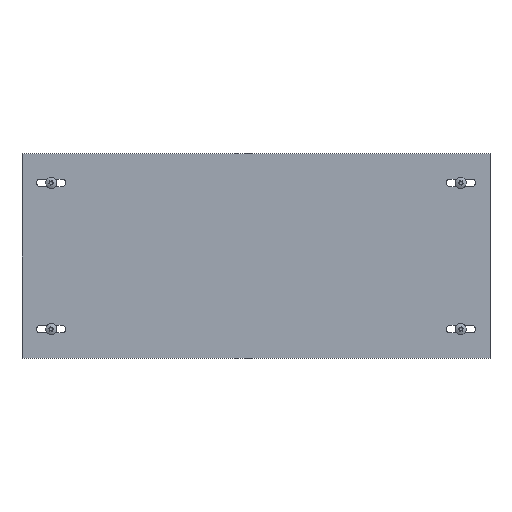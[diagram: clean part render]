
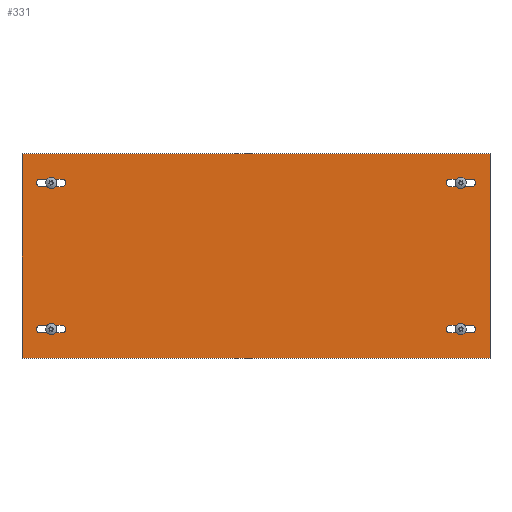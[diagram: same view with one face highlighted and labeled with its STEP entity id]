
A CAD part, top view. The second image highlights one B-rep face of the part: STEP entity #331.
In plain terms, the highlighted planar face has unit normal (0, 0, 1).
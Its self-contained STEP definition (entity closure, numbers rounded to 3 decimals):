
#55 = EDGE_CURVE('',#56,#58,#60,.T.);
#56 = VERTEX_POINT('',#57);
#57 = CARTESIAN_POINT('',(-200.,87.5,0.));
#58 = VERTEX_POINT('',#59);
#59 = CARTESIAN_POINT('',(-200.,-87.5,0.));
#60 = LINE('',#61,#62);
#61 = CARTESIAN_POINT('',(-200.,-87.5,0.));
#62 = VECTOR('',#63,1.);
#63 = DIRECTION('',(-0.,-1.,-0.));
#95 = EDGE_CURVE('',#96,#56,#98,.T.);
#96 = VERTEX_POINT('',#97);
#97 = CARTESIAN_POINT('',(200.,87.5,0.));
#98 = LINE('',#99,#100);
#99 = CARTESIAN_POINT('',(200.,87.5,0.));
#100 = VECTOR('',#101,1.);
#101 = DIRECTION('',(-1.,0.,0.));
#126 = EDGE_CURVE('',#127,#96,#129,.T.);
#127 = VERTEX_POINT('',#128);
#128 = CARTESIAN_POINT('',(200.,-87.5,0.));
#129 = LINE('',#130,#131);
#130 = CARTESIAN_POINT('',(200.,-87.5,0.));
#131 = VECTOR('',#132,1.);
#132 = DIRECTION('',(0.,1.,0.));
#157 = EDGE_CURVE('',#58,#127,#158,.T.);
#158 = LINE('',#159,#160);
#159 = CARTESIAN_POINT('',(200.,-87.5,0.));
#160 = VECTOR('',#161,1.);
#161 = DIRECTION('',(1.,0.,-0.));
#331 = ADVANCED_FACE('',(#332,#368,#404,#440,#476),#482,.T.);
#332 = FACE_BOUND('',#333,.T.);
#333 = EDGE_LOOP('',(#334,#345,#353,#362));
#334 = ORIENTED_EDGE('',*,*,#335,.F.);
#335 = EDGE_CURVE('',#336,#338,#340,.T.);
#336 = VERTEX_POINT('',#337);
#337 = CARTESIAN_POINT('',(-165.75,-65.75,0.));
#338 = VERTEX_POINT('',#339);
#339 = CARTESIAN_POINT('',(-165.75,-59.25,0.));
#340 = CIRCLE('',#341,3.25);
#341 = AXIS2_PLACEMENT_3D('',#342,#343,#344);
#342 = CARTESIAN_POINT('',(-165.75,-62.5,0.));
#343 = DIRECTION('',(0.,0.,1.));
#344 = DIRECTION('',(1.,0.,-0.));
#345 = ORIENTED_EDGE('',*,*,#346,.F.);
#346 = EDGE_CURVE('',#347,#336,#349,.T.);
#347 = VERTEX_POINT('',#348);
#348 = CARTESIAN_POINT('',(-184.25,-65.75,0.));
#349 = LINE('',#350,#351);
#350 = CARTESIAN_POINT('',(-165.75,-65.75,0.));
#351 = VECTOR('',#352,1.);
#352 = DIRECTION('',(1.,-0.,-0.));
#353 = ORIENTED_EDGE('',*,*,#354,.F.);
#354 = EDGE_CURVE('',#355,#347,#357,.T.);
#355 = VERTEX_POINT('',#356);
#356 = CARTESIAN_POINT('',(-184.25,-59.25,0.));
#357 = CIRCLE('',#358,3.25);
#358 = AXIS2_PLACEMENT_3D('',#359,#360,#361);
#359 = CARTESIAN_POINT('',(-184.25,-62.5,0.));
#360 = DIRECTION('',(0.,0.,1.));
#361 = DIRECTION('',(1.,0.,-0.));
#362 = ORIENTED_EDGE('',*,*,#363,.F.);
#363 = EDGE_CURVE('',#338,#355,#364,.T.);
#364 = LINE('',#365,#366);
#365 = CARTESIAN_POINT('',(-165.75,-59.25,0.));
#366 = VECTOR('',#367,1.);
#367 = DIRECTION('',(-1.,0.,0.));
#368 = FACE_BOUND('',#369,.T.);
#369 = EDGE_LOOP('',(#370,#381,#389,#398));
#370 = ORIENTED_EDGE('',*,*,#371,.F.);
#371 = EDGE_CURVE('',#372,#374,#376,.T.);
#372 = VERTEX_POINT('',#373);
#373 = CARTESIAN_POINT('',(-165.75,59.25,0.));
#374 = VERTEX_POINT('',#375);
#375 = CARTESIAN_POINT('',(-165.75,65.75,0.));
#376 = CIRCLE('',#377,3.25);
#377 = AXIS2_PLACEMENT_3D('',#378,#379,#380);
#378 = CARTESIAN_POINT('',(-165.75,62.5,0.));
#379 = DIRECTION('',(0.,0.,1.));
#380 = DIRECTION('',(-1.,0.,0.));
#381 = ORIENTED_EDGE('',*,*,#382,.F.);
#382 = EDGE_CURVE('',#383,#372,#385,.T.);
#383 = VERTEX_POINT('',#384);
#384 = CARTESIAN_POINT('',(-184.25,59.25,0.));
#385 = LINE('',#386,#387);
#386 = CARTESIAN_POINT('',(-165.75,59.25,0.));
#387 = VECTOR('',#388,1.);
#388 = DIRECTION('',(1.,-0.,-0.));
#389 = ORIENTED_EDGE('',*,*,#390,.F.);
#390 = EDGE_CURVE('',#391,#383,#393,.T.);
#391 = VERTEX_POINT('',#392);
#392 = CARTESIAN_POINT('',(-184.25,65.75,0.));
#393 = CIRCLE('',#394,3.25);
#394 = AXIS2_PLACEMENT_3D('',#395,#396,#397);
#395 = CARTESIAN_POINT('',(-184.25,62.5,0.));
#396 = DIRECTION('',(0.,0.,1.));
#397 = DIRECTION('',(-1.,0.,0.));
#398 = ORIENTED_EDGE('',*,*,#399,.F.);
#399 = EDGE_CURVE('',#374,#391,#400,.T.);
#400 = LINE('',#401,#402);
#401 = CARTESIAN_POINT('',(-165.75,65.75,0.));
#402 = VECTOR('',#403,1.);
#403 = DIRECTION('',(-1.,0.,0.));
#404 = FACE_BOUND('',#405,.T.);
#405 = EDGE_LOOP('',(#406,#417,#425,#434));
#406 = ORIENTED_EDGE('',*,*,#407,.F.);
#407 = EDGE_CURVE('',#408,#410,#412,.T.);
#408 = VERTEX_POINT('',#409);
#409 = CARTESIAN_POINT('',(165.75,65.75,0.));
#410 = VERTEX_POINT('',#411);
#411 = CARTESIAN_POINT('',(165.75,59.25,0.));
#412 = CIRCLE('',#413,3.25);
#413 = AXIS2_PLACEMENT_3D('',#414,#415,#416);
#414 = CARTESIAN_POINT('',(165.75,62.5,0.));
#415 = DIRECTION('',(0.,0.,1.));
#416 = DIRECTION('',(1.,0.,-0.));
#417 = ORIENTED_EDGE('',*,*,#418,.F.);
#418 = EDGE_CURVE('',#419,#408,#421,.T.);
#419 = VERTEX_POINT('',#420);
#420 = CARTESIAN_POINT('',(184.25,65.75,0.));
#421 = LINE('',#422,#423);
#422 = CARTESIAN_POINT('',(165.75,65.75,0.));
#423 = VECTOR('',#424,1.);
#424 = DIRECTION('',(-1.,-0.,-0.));
#425 = ORIENTED_EDGE('',*,*,#426,.F.);
#426 = EDGE_CURVE('',#427,#419,#429,.T.);
#427 = VERTEX_POINT('',#428);
#428 = CARTESIAN_POINT('',(184.25,59.25,0.));
#429 = CIRCLE('',#430,3.25);
#430 = AXIS2_PLACEMENT_3D('',#431,#432,#433);
#431 = CARTESIAN_POINT('',(184.25,62.5,0.));
#432 = DIRECTION('',(0.,0.,1.));
#433 = DIRECTION('',(1.,0.,-0.));
#434 = ORIENTED_EDGE('',*,*,#435,.F.);
#435 = EDGE_CURVE('',#410,#427,#436,.T.);
#436 = LINE('',#437,#438);
#437 = CARTESIAN_POINT('',(165.75,59.25,0.));
#438 = VECTOR('',#439,1.);
#439 = DIRECTION('',(1.,0.,0.));
#440 = FACE_BOUND('',#441,.T.);
#441 = EDGE_LOOP('',(#442,#453,#461,#470));
#442 = ORIENTED_EDGE('',*,*,#443,.F.);
#443 = EDGE_CURVE('',#444,#446,#448,.T.);
#444 = VERTEX_POINT('',#445);
#445 = CARTESIAN_POINT('',(165.75,-59.25,0.));
#446 = VERTEX_POINT('',#447);
#447 = CARTESIAN_POINT('',(165.75,-65.75,0.));
#448 = CIRCLE('',#449,3.25);
#449 = AXIS2_PLACEMENT_3D('',#450,#451,#452);
#450 = CARTESIAN_POINT('',(165.75,-62.5,0.));
#451 = DIRECTION('',(0.,0.,1.));
#452 = DIRECTION('',(-1.,0.,0.));
#453 = ORIENTED_EDGE('',*,*,#454,.F.);
#454 = EDGE_CURVE('',#455,#444,#457,.T.);
#455 = VERTEX_POINT('',#456);
#456 = CARTESIAN_POINT('',(184.25,-59.25,0.));
#457 = LINE('',#458,#459);
#458 = CARTESIAN_POINT('',(165.75,-59.25,0.));
#459 = VECTOR('',#460,1.);
#460 = DIRECTION('',(-1.,-0.,-0.));
#461 = ORIENTED_EDGE('',*,*,#462,.F.);
#462 = EDGE_CURVE('',#463,#455,#465,.T.);
#463 = VERTEX_POINT('',#464);
#464 = CARTESIAN_POINT('',(184.25,-65.75,0.));
#465 = CIRCLE('',#466,3.25);
#466 = AXIS2_PLACEMENT_3D('',#467,#468,#469);
#467 = CARTESIAN_POINT('',(184.25,-62.5,0.));
#468 = DIRECTION('',(0.,0.,1.));
#469 = DIRECTION('',(-1.,0.,0.));
#470 = ORIENTED_EDGE('',*,*,#471,.F.);
#471 = EDGE_CURVE('',#446,#463,#472,.T.);
#472 = LINE('',#473,#474);
#473 = CARTESIAN_POINT('',(165.75,-65.75,0.));
#474 = VECTOR('',#475,1.);
#475 = DIRECTION('',(1.,0.,0.));
#476 = FACE_BOUND('',#477,.T.);
#477 = EDGE_LOOP('',(#478,#479,#480,#481));
#478 = ORIENTED_EDGE('',*,*,#55,.T.);
#479 = ORIENTED_EDGE('',*,*,#157,.T.);
#480 = ORIENTED_EDGE('',*,*,#126,.T.);
#481 = ORIENTED_EDGE('',*,*,#95,.T.);
#482 = PLANE('',#483);
#483 = AXIS2_PLACEMENT_3D('',#484,#485,#486);
#484 = CARTESIAN_POINT('',(0.,0.,0.));
#485 = DIRECTION('',(0.,-0.,1.));
#486 = DIRECTION('',(1.,0.,0.));
